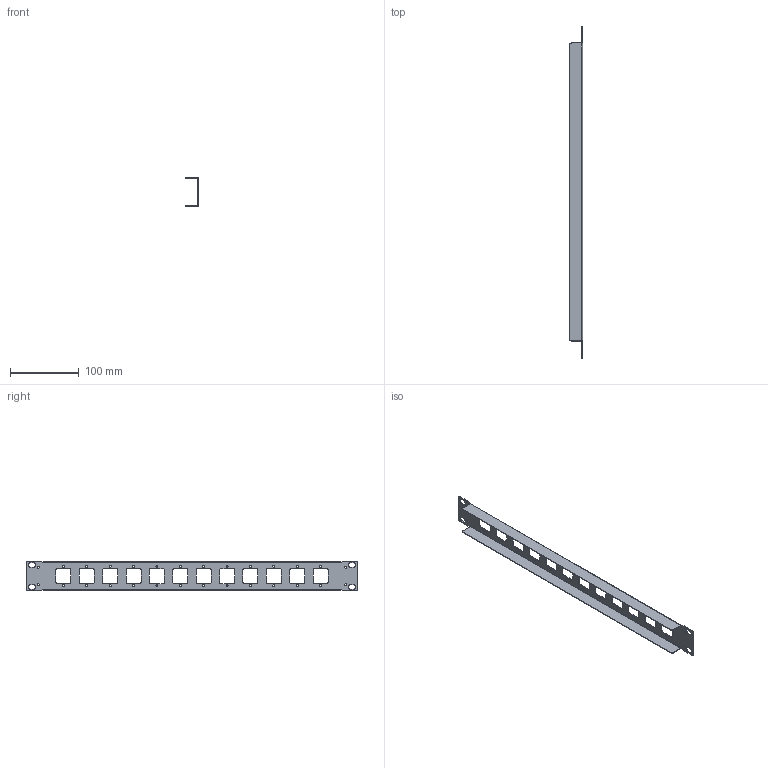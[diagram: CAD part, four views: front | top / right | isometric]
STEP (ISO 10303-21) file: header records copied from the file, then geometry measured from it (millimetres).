
FILE_DESCRIPTION (( 'STEP AP214' ), '1' );
FILE_NAME ('Z-EN50-RP.stp', '2015-03-09T09:56:41', ( 'Orametrix' ), ( 'Orametrix' ), 'SwSTEP 2.0', 'SolidWorks 2014', '' );
FILE_SCHEMA (( 'AUTOMOTIVE_DESIGN' ));
Length unit declared in the file: millimetre
Products named in the file (2): Z-EN50-RP
Bounding box: 19 x 482.6 x 43.6 mm (x, y, z)
Volume: 29281 mm3; surface area: 61070.8 mm2
Topology: 1 solids, 1 shells, 210 faces, 616 edges, 408 vertices
Faces by surface type: cylinder 124, plane 86
Entity records: 7289 total; most frequent: DIRECTION 1288, CARTESIAN_POINT 1236, ORIENTED_EDGE 1232, EDGE_CURVE 616, AXIS2_PLACEMENT_3D 460, VERTEX_POINT 408, LINE 368, VECTOR 368
